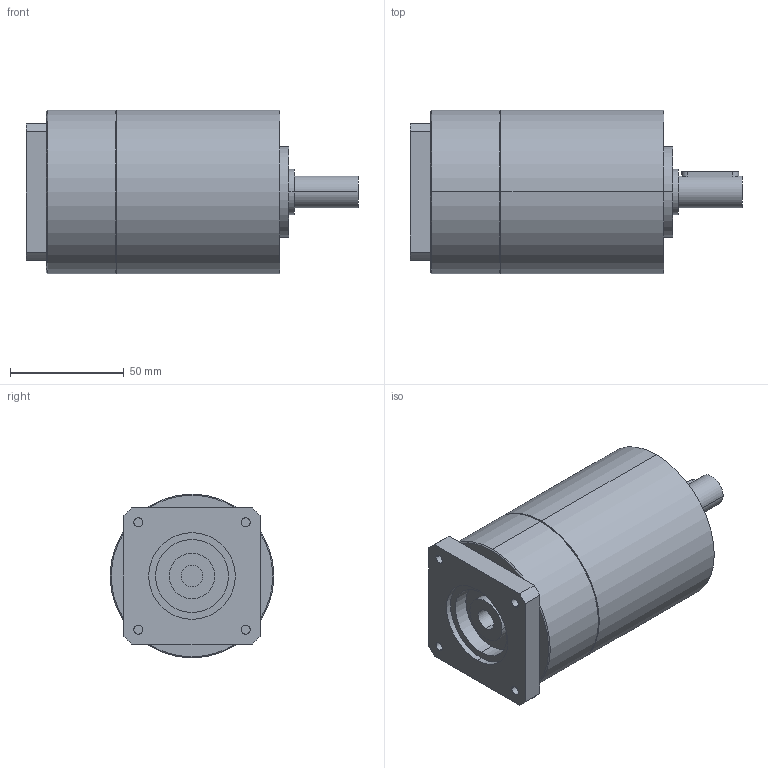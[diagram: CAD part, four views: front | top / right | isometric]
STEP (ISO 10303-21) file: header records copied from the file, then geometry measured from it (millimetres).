
FILE_DESCRIPTION(('CoCreate Modeling STEP Export'),'2;1');
FILE_NAME('GPT75_ig-9-12-16-20-25-28-35-40-50-70-100_14_B14T_9.52_P28.stp','2014-08-27T13:26:47',(''),(''),'CoCreate Modeling STEP processor for AP214 (Solid Model)','CoCreate Modeling 16.00C 25-Feb-2009 (C) Parametric Technology GmbH','');
FILE_SCHEMA(('AUTOMOTIVE_DESIGN { 1 0 10303 214 1 1 1 1 }'));
Length unit declared in the file: millimetre
Products named in the file (2): GPT75_ig-9-12-16-20-25-28-35-40-50-70-100_14_B14T_9.52_P28
Assembly tree (1 placements, depth 2):
  GPT75_ig-9-12-16-20-25-28-35-40-50-70-100_14_B14T_9.52_P28
    GPT75_ig-9-12-16-20-25-28-35-40-50-70-100_14_B14T_9.52_P28
Bounding box: 146 x 72 x 72 mm (x, y, z)
Volume: 449105.8 mm3; surface area: 39291.3 mm2
Topology: 1 solids, 1 shells, 80 faces, 182 edges, 121 vertices
Faces by surface type: cylinder 42, plane 34, cone 4
Entity records: 2269 total; most frequent: CARTESIAN_POINT 677, ORIENTED_EDGE 364, DIRECTION 268, EDGE_CURVE 182, VERTEX_POINT 121, AXIS2_PLACEMENT_3D 100, EDGE_LOOP 97, FACE_OUTER_BOUND 80
